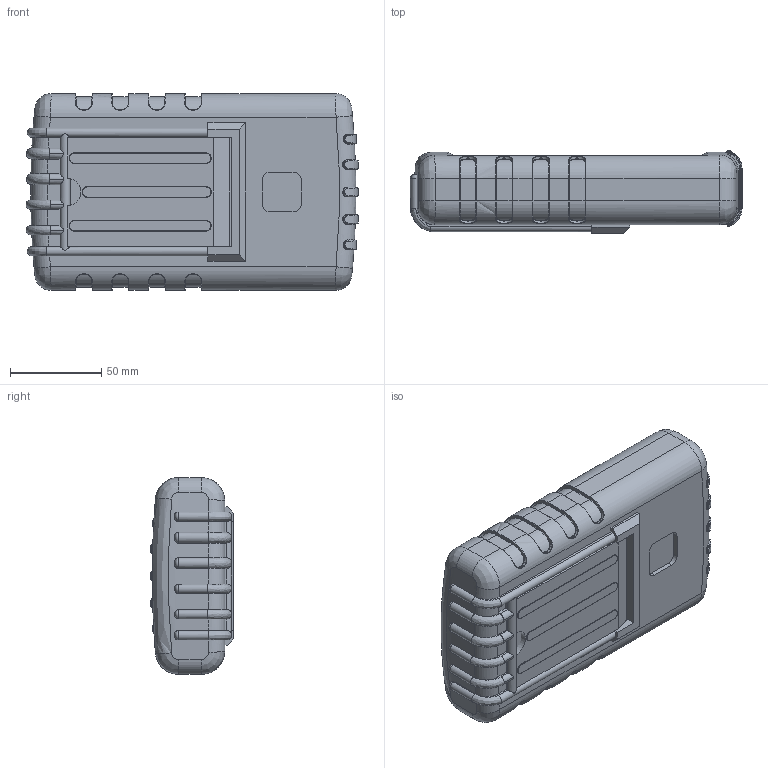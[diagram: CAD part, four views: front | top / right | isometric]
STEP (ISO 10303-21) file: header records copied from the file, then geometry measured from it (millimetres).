
FILE_DESCRIPTION (( 'STEP AP214' ), '1' );
FILE_NAME ('91-43-9V-R.STEP', '2020-10-19T17:53:54', ( 'Rudy' ), ( '' ), 'SwSTEP 2.0', 'SolidWorks 2014', '' );
FILE_SCHEMA (( 'AUTOMOTIVE_DESIGN' ));
Length unit declared in the file: millimetre
Products named in the file (8): 90 RBT; RT 90 stand; 90 PCB 9V; 9V door; 91 LCD Top; 90-9V Deep; 91-43-9V-R
Assembly tree (7 placements, depth 3):
  91-43-9V-R
    90-9V Deep
    91 LCD Top
    9V door
    90 PCB 9V
    90 RBT
      90 RBT
      RT 90 stand
Bounding box: 182.05 x 45.61 x 108 mm (x, y, z)
Volume: 362082.5 mm3; surface area: 206127.4 mm2
Topology: 6 solids, 6 shells, 1342 faces, 3430 edges, 2133 vertices
Faces by surface type: plane 551, cylinder 417, bspline 180, torus 116, cone 62, sphere 16
Entity records: 52700 total; most frequent: CARTESIAN_POINT 21047, ORIENTED_EDGE 6828, DIRECTION 6304, EDGE_CURVE 3414, AXIS2_PLACEMENT_3D 2268, VERTEX_POINT 2125, VECTOR 1768, LINE 1768
